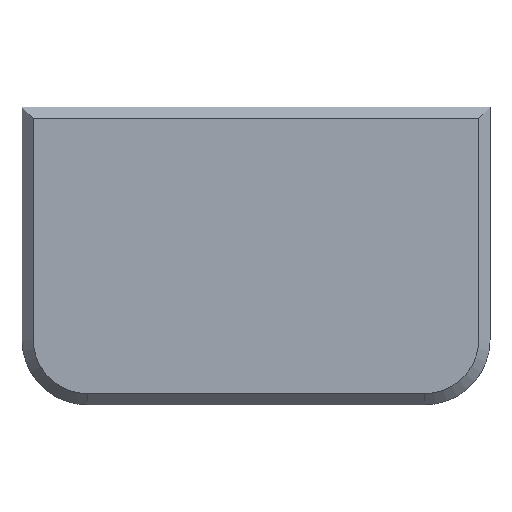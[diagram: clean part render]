
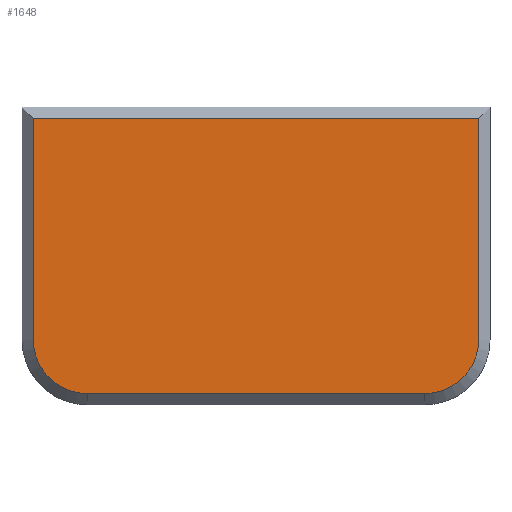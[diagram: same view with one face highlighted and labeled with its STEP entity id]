
A CAD part, top view. The second image highlights one B-rep face of the part: STEP entity #1648.
In plain terms, the highlighted planar face has unit normal (0, 0, 1).
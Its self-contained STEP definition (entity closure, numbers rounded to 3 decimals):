
#38=CIRCLE('',#1758,24.);
#40=CIRCLE('',#1762,24.);
#134=FACE_OUTER_BOUND('',#229,.T.);
#229=EDGE_LOOP('',(#1407,#1408,#1409,#1410,#1411,#1412));
#413=LINE('',#2566,#625);
#427=LINE('',#2597,#639);
#436=LINE('',#2628,#648);
#440=LINE('',#2638,#652);
#625=VECTOR('',#2100,10.);
#639=VECTOR('',#2126,10.);
#648=VECTOR('',#2163,10.);
#652=VECTOR('',#2175,10.);
#770=VERTEX_POINT('',#2564);
#771=VERTEX_POINT('',#2565);
#782=VERTEX_POINT('',#2595);
#788=VERTEX_POINT('',#2620);
#790=VERTEX_POINT('',#2626);
#792=VERTEX_POINT('',#2632);
#973=EDGE_CURVE('',#770,#771,#413,.T.);
#989=EDGE_CURVE('',#782,#770,#427,.T.);
#1001=EDGE_CURVE('',#788,#782,#38,.T.);
#1004=EDGE_CURVE('',#790,#788,#436,.T.);
#1007=EDGE_CURVE('',#792,#790,#40,.T.);
#1010=EDGE_CURVE('',#771,#792,#440,.T.);
#1407=ORIENTED_EDGE('',*,*,#973,.F.);
#1408=ORIENTED_EDGE('',*,*,#989,.F.);
#1409=ORIENTED_EDGE('',*,*,#1001,.F.);
#1410=ORIENTED_EDGE('',*,*,#1004,.F.);
#1411=ORIENTED_EDGE('',*,*,#1007,.F.);
#1412=ORIENTED_EDGE('',*,*,#1010,.F.);
#1554=PLANE('',#1769);
#1648=ADVANCED_FACE('',(#134),#1554,.T.);
#1758=AXIS2_PLACEMENT_3D('',#2622,#2156,#2157);
#1762=AXIS2_PLACEMENT_3D('',#2634,#2168,#2169);
#1769=AXIS2_PLACEMENT_3D('',#2653,#2190,#2191);
#2100=DIRECTION('',(1.,0.,0.));
#2126=DIRECTION('',(0.,1.,0.));
#2156=DIRECTION('center_axis',(0.,0.,-1.));
#2157=DIRECTION('ref_axis',(-1.,0.,0.));
#2163=DIRECTION('',(-1.,0.,0.));
#2168=DIRECTION('center_axis',(0.,0.,-1.));
#2169=DIRECTION('ref_axis',(0.,-1.,0.));
#2175=DIRECTION('',(0.,-1.,0.));
#2190=DIRECTION('center_axis',(0.,0.,1.));
#2191=DIRECTION('ref_axis',(-1.,0.,0.));
#2564=CARTESIAN_POINT('',(-99.,98.3,118.));
#2565=CARTESIAN_POINT('',(99.,98.3,118.));
#2566=CARTESIAN_POINT('',(52.,98.3,118.));
#2595=CARTESIAN_POINT('',(-99.,0.,118.));
#2597=CARTESIAN_POINT('',(-99.,70.225,118.));
#2620=CARTESIAN_POINT('',(-75.,-24.,118.));
#2622=CARTESIAN_POINT('Origin',(-75.,0.,
118.));
#2626=CARTESIAN_POINT('',(75.,-24.,118.));
#2628=CARTESIAN_POINT('',(-37.5,-24.,118.));
#2632=CARTESIAN_POINT('',(99.,0.,118.));
#2634=CARTESIAN_POINT('Origin',(75.,0.,118.));
#2638=CARTESIAN_POINT('',(99.,18.575,118.));
#2653=CARTESIAN_POINT('Origin',(0.,37.15,118.));
